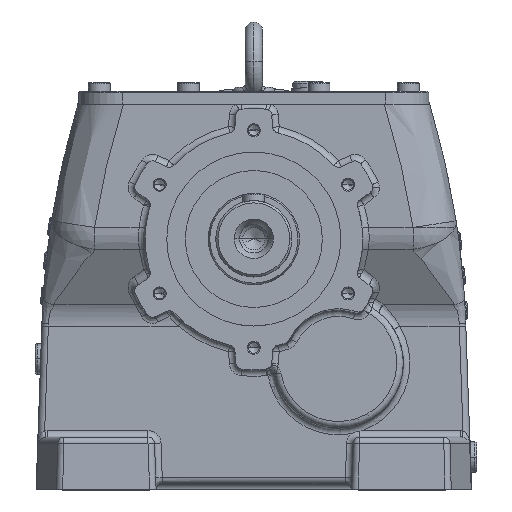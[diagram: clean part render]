
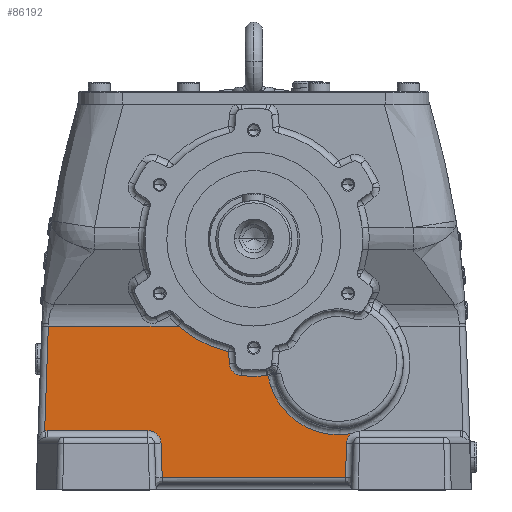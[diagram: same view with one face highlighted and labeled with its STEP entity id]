
A CAD part, top view. The second image highlights one B-rep face of the part: STEP entity #86192.
In plain terms, the highlighted planar face has unit normal (0, 0, 1).
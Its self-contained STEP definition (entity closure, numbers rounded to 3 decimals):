
#28740 = CARTESIAN_POINT ( 'NONE',  ( -125., -34.641, -40. ) ) ;
#28741 = AXIS2_PLACEMENT_3D ( 'NONE', #28740, #28793, #28792 ) ;
#28742 = PLANE ( 'NONE',  #28741 ) ;
#28755 = FACE_OUTER_BOUND ( 'NONE', #86193, .T. ) ;
#28775 = CARTESIAN_POINT ( 'NONE',  ( -42.652, -93.791, -40. ) ) ;
#28776 = DIRECTION ( 'NONE',  ( 0., 1., 0. ) ) ;
#28777 = DIRECTION ( 'NONE',  ( 0., 0., -1. ) ) ;
#28778 = CARTESIAN_POINT ( 'NONE',  ( -48.648, -94., -40. ) ) ;
#28779 = AXIS2_PLACEMENT_3D ( 'NONE', #28778, #28777, #28776 ) ;
#28780 = CIRCLE ( 'NONE', #28779, 6. ) ;
#28786 = CARTESIAN_POINT ( 'NONE',  ( 42.103, -109.5, -40. ) ) ;
#28787 = CARTESIAN_POINT ( 'NONE',  ( -42.103, -109.5, -40. ) ) ;
#28788 = DIRECTION ( 'NONE',  ( 1., 0., 0. ) ) ;
#28789 = VECTOR ( 'NONE', #28788, 1000. ) ;
#28790 = CARTESIAN_POINT ( 'NONE',  ( 96.998, -109.5, -40. ) ) ;
#28791 = LINE ( 'NONE', #28790, #28789 ) ;
#28792 = DIRECTION ( 'NONE',  ( 0., 1., 0. ) ) ;
#28793 = DIRECTION ( 'NONE',  ( 0., 0., -1. ) ) ;
#28818 = CARTESIAN_POINT ( 'NONE',  ( -11.202, -57.283, -40. ) ) ;
#28819 = DIRECTION ( 'NONE',  ( 0., 1., 0. ) ) ;
#28820 = DIRECTION ( 'NONE',  ( 0., 0., -1. ) ) ;
#28821 = CARTESIAN_POINT ( 'NONE',  ( -5.225, -56.76, -40. ) ) ;
#28822 = AXIS2_PLACEMENT_3D ( 'NONE', #28821, #28820, #28819 ) ;
#28823 = CIRCLE ( 'NONE', #28822, 6. ) ;
#28824 = CARTESIAN_POINT ( 'NONE',  ( -5.775, -62.735, -40. ) ) ;
#28825 = DIRECTION ( 'NONE',  ( 0., 1., 0. ) ) ;
#28826 = DIRECTION ( 'NONE',  ( 0., 0., -1. ) ) ;
#28827 = CARTESIAN_POINT ( 'NONE',  ( 0., 0., -40. ) ) ;
#28828 = AXIS2_PLACEMENT_3D ( 'NONE', #28827, #28826, #28825 ) ;
#28829 = CIRCLE ( 'NONE', #28828, 63. ) ;
#28830 = CARTESIAN_POINT ( 'NONE',  ( 5.775, -62.735, -40. ) ) ;
#28831 = DIRECTION ( 'NONE',  ( 0., 1., 0. ) ) ;
#28832 = DIRECTION ( 'NONE',  ( 0., 0., -1. ) ) ;
#28833 = CARTESIAN_POINT ( 'NONE',  ( 5.225, -56.76, -40. ) ) ;
#28834 = AXIS2_PLACEMENT_3D ( 'NONE', #28833, #28832, #28831 ) ;
#28835 = CIRCLE ( 'NONE', #28834, 6. ) ;
#28877 = CARTESIAN_POINT ( 'NONE',  ( -48.648, -88., -40. ) ) ;
#28878 = DIRECTION ( 'NONE',  ( 1., 0., 0. ) ) ;
#28879 = VECTOR ( 'NONE', #28878, 1000. ) ;
#28880 = CARTESIAN_POINT ( 'NONE',  ( -48.648, -88., -40. ) ) ;
#28881 = CARTESIAN_POINT ( 'NONE',  ( -95.038, -88., -40. ) ) ;
#28882 = CARTESIAN_POINT ( 'NONE',  ( -95.41, -88., -40. ) ) ;
#28883 = CARTESIAN_POINT ( 'NONE',  ( -95.78, -88.031, -40. ) ) ;
#28884 = CARTESIAN_POINT ( 'NONE',  ( -96.146, -88.093, -40. ) ) ;
#28885 =( BOUNDED_CURVE ( )  B_SPLINE_CURVE ( 3, ( #28884, #28883, #28882, #28881 ),
 .UNSPECIFIED., .F., .T. ) 
 B_SPLINE_CURVE_WITH_KNOTS ( ( 4, 4 ),
 ( 4.536, 4.712 ),
 .UNSPECIFIED. ) 
 CURVE ( )  GEOMETRIC_REPRESENTATION_ITEM ( )  RATIONAL_B_SPLINE_CURVE ( ( 1., 0.997, 0.997, 1. ) ) 
 REPRESENTATION_ITEM ( '' )  );
#28886 = LINE ( 'NONE', #28880, #28879 ) ;
#28887 = CARTESIAN_POINT ( 'NONE',  ( -95.038, -88., -40. ) ) ;
#28888 = CARTESIAN_POINT ( 'NONE',  ( -96.146, -88.093, -40. ) ) ;
#28889 = DIRECTION ( 'NONE',  ( -0.035, -0.999, 0. ) ) ;
#28890 = VECTOR ( 'NONE', #28889, 1000. ) ;
#28891 = CARTESIAN_POINT ( 'NONE',  ( -97.002, -112.605, -40. ) ) ;
#28892 = LINE ( 'NONE', #28891, #28890 ) ;
#28893 = CARTESIAN_POINT ( 'NONE',  ( -94.466, -40., -40. ) ) ;
#28894 = DIRECTION ( 'NONE',  ( -1., 0., 0. ) ) ;
#28895 = VECTOR ( 'NONE', #28894, 1000. ) ;
#28896 = CARTESIAN_POINT ( 'NONE',  ( -97.262, -40., -40. ) ) ;
#28897 = LINE ( 'NONE', #28896, #28895 ) ;
#28913 = CARTESIAN_POINT ( 'NONE',  ( 6.468, -62.63, -40. ) ) ;
#28914 = DIRECTION ( 'NONE',  ( 0., 1., 0. ) ) ;
#28915 = DIRECTION ( 'NONE',  ( 0., 0., 1. ) ) ;
#28916 = CARTESIAN_POINT ( 'NONE',  ( 6.376, -62.676, -40. ) ) ;
#28917 = AXIS2_PLACEMENT_3D ( 'NONE', #28916, #28915, #28914 ) ;
#28918 = CIRCLE ( 'NONE', #28917, 0.103 ) ;
#28963 = CARTESIAN_POINT ( 'NONE',  ( 6.478, -62.659, -40. ) ) ;
#28964 = DIRECTION ( 'NONE',  ( 0., 1., 0. ) ) ;
#28965 = DIRECTION ( 'NONE',  ( 0., 0., -1. ) ) ;
#28966 = CARTESIAN_POINT ( 'NONE',  ( 38.884, -57., -40. ) ) ;
#28967 = AXIS2_PLACEMENT_3D ( 'NONE', #28966, #28965, #28964 ) ;
#28968 = CIRCLE ( 'NONE', #28967, 32.897 ) ;
#28969 = CARTESIAN_POINT ( 'NONE',  ( 44.855, -89.351, -40. ) ) ;
#28970 = DIRECTION ( 'NONE',  ( 0., 1., 0. ) ) ;
#28971 = DIRECTION ( 'NONE',  ( 0., 0., -1. ) ) ;
#28972 = CARTESIAN_POINT ( 'NONE',  ( 48.648, -94., -40. ) ) ;
#28973 = AXIS2_PLACEMENT_3D ( 'NONE', #28972, #28971, #28970 ) ;
#28974 = CIRCLE ( 'NONE', #28973, 6. ) ;
#28975 = CARTESIAN_POINT ( 'NONE',  ( 42.652, -93.791, -40. ) ) ;
#28976 = DIRECTION ( 'NONE',  ( 0.035, 0.999, 0. ) ) ;
#28977 = VECTOR ( 'NONE', #28976, 1000. ) ;
#28978 = CARTESIAN_POINT ( 'NONE',  ( 42.652, -93.791, -40. ) ) ;
#28979 = LINE ( 'NONE', #28978, #28977 ) ;
#29032 = CARTESIAN_POINT ( 'NONE',  ( -34.771, -40., -40. ) ) ;
#29033 = DIRECTION ( 'NONE',  ( 0., 1., 0. ) ) ;
#29034 = DIRECTION ( 'NONE',  ( 0., 0., -1. ) ) ;
#29035 = CARTESIAN_POINT ( 'NONE',  ( 0., 0., -40. ) ) ;
#29036 = AXIS2_PLACEMENT_3D ( 'NONE', #29035, #29034, #29033 ) ;
#29037 = CIRCLE ( 'NONE', #29036, 53. ) ;
#29038 = CARTESIAN_POINT ( 'NONE',  ( -11.691, -51.694, -40. ) ) ;
#29039 = DIRECTION ( 'NONE',  ( -0.087, 0.996, 0. ) ) ;
#29040 = VECTOR ( 'NONE', #29039, 1000. ) ;
#29041 = CARTESIAN_POINT ( 'NONE',  ( -14.033, -24.933, -40. ) ) ;
#29042 = LINE ( 'NONE', #29041, #29040 ) ;
#29289 = DIRECTION ( 'NONE',  ( 0.035, -0.999, 0. ) ) ;
#29290 = VECTOR ( 'NONE', #29289, 1000. ) ;
#29291 = CARTESIAN_POINT ( 'NONE',  ( -42.107, -109.395, -40. ) ) ;
#29292 = LINE ( 'NONE', #29291, #29290 ) ;
#86192 = ADVANCED_FACE ( 'NONE', ( #28755 ), #28742, .F. ) ;
#86193 = EDGE_LOOP ( 'NONE', ( #86194, #86271, #86274, #86277, #86280, #86204, #86207, #86210, #86213, #86323, #86326, #86234, #86237, #86240, #86243, #86390 ) ) ;
#86194 = ORIENTED_EDGE ( 'NONE', *, *, #86195, .T. ) ;
#86195 = EDGE_CURVE ( 'NONE', #86196, #86197, #28791, .T. ) ;
#86196 = VERTEX_POINT ( 'NONE', #28787 ) ;
#86197 = VERTEX_POINT ( 'NONE', #28786 ) ;
#86200 = EDGE_CURVE ( 'NONE', #86242, #86201, #28780, .T. ) ;
#86201 = VERTEX_POINT ( 'NONE', #28775 ) ;
#86204 = ORIENTED_EDGE ( 'NONE', *, *, #86205, .T. ) ;
#86205 = EDGE_CURVE ( 'NONE', #86245, #86206, #28835, .T. ) ;
#86206 = VERTEX_POINT ( 'NONE', #28830 ) ;
#86207 = ORIENTED_EDGE ( 'NONE', *, *, #86208, .T. ) ;
#86208 = EDGE_CURVE ( 'NONE', #86206, #86209, #28829, .T. ) ;
#86209 = VERTEX_POINT ( 'NONE', #28824 ) ;
#86210 = ORIENTED_EDGE ( 'NONE', *, *, #86211, .T. ) ;
#86211 = EDGE_CURVE ( 'NONE', #86209, #86212, #28823, .T. ) ;
#86212 = VERTEX_POINT ( 'NONE', #28818 ) ;
#86213 = ORIENTED_EDGE ( 'NONE', *, *, #86321, .T. ) ;
#86232 = EDGE_CURVE ( 'NONE', #86325, #86233, #28897, .T. ) ;
#86233 = VERTEX_POINT ( 'NONE', #28893 ) ;
#86234 = ORIENTED_EDGE ( 'NONE', *, *, #86235, .T. ) ;
#86235 = EDGE_CURVE ( 'NONE', #86233, #86236, #28892, .T. ) ;
#86236 = VERTEX_POINT ( 'NONE', #28888 ) ;
#86237 = ORIENTED_EDGE ( 'NONE', *, *, #86238, .T. ) ;
#86238 = EDGE_CURVE ( 'NONE', #86236, #86239, #28885, .T. ) ;
#86239 = VERTEX_POINT ( 'NONE', #28887 ) ;
#86240 = ORIENTED_EDGE ( 'NONE', *, *, #86241, .T. ) ;
#86241 = EDGE_CURVE ( 'NONE', #86239, #86242, #28886, .T. ) ;
#86242 = VERTEX_POINT ( 'NONE', #28877 ) ;
#86243 = ORIENTED_EDGE ( 'NONE', *, *, #86200, .T. ) ;
#86244 = EDGE_CURVE ( 'NONE', #86279, #86245, #28918, .T. ) ;
#86245 = VERTEX_POINT ( 'NONE', #28913 ) ;
#86271 = ORIENTED_EDGE ( 'NONE', *, *, #86272, .T. ) ;
#86272 = EDGE_CURVE ( 'NONE', #86197, #86273, #28979, .T. ) ;
#86273 = VERTEX_POINT ( 'NONE', #28975 ) ;
#86274 = ORIENTED_EDGE ( 'NONE', *, *, #86275, .T. ) ;
#86275 = EDGE_CURVE ( 'NONE', #86273, #86276, #28974, .T. ) ;
#86276 = VERTEX_POINT ( 'NONE', #28969 ) ;
#86277 = ORIENTED_EDGE ( 'NONE', *, *, #86278, .T. ) ;
#86278 = EDGE_CURVE ( 'NONE', #86276, #86279, #28968, .T. ) ;
#86279 = VERTEX_POINT ( 'NONE', #28963 ) ;
#86280 = ORIENTED_EDGE ( 'NONE', *, *, #86244, .T. ) ;
#86321 = EDGE_CURVE ( 'NONE', #86212, #86322, #29042, .T. ) ;
#86322 = VERTEX_POINT ( 'NONE', #29038 ) ;
#86323 = ORIENTED_EDGE ( 'NONE', *, *, #86324, .T. ) ;
#86324 = EDGE_CURVE ( 'NONE', #86322, #86325, #29037, .T. ) ;
#86325 = VERTEX_POINT ( 'NONE', #29032 ) ;
#86326 = ORIENTED_EDGE ( 'NONE', *, *, #86232, .T. ) ;
#86390 = ORIENTED_EDGE ( 'NONE', *, *, #86391, .T. ) ;
#86391 = EDGE_CURVE ( 'NONE', #86201, #86196, #29292, .T. ) ;
